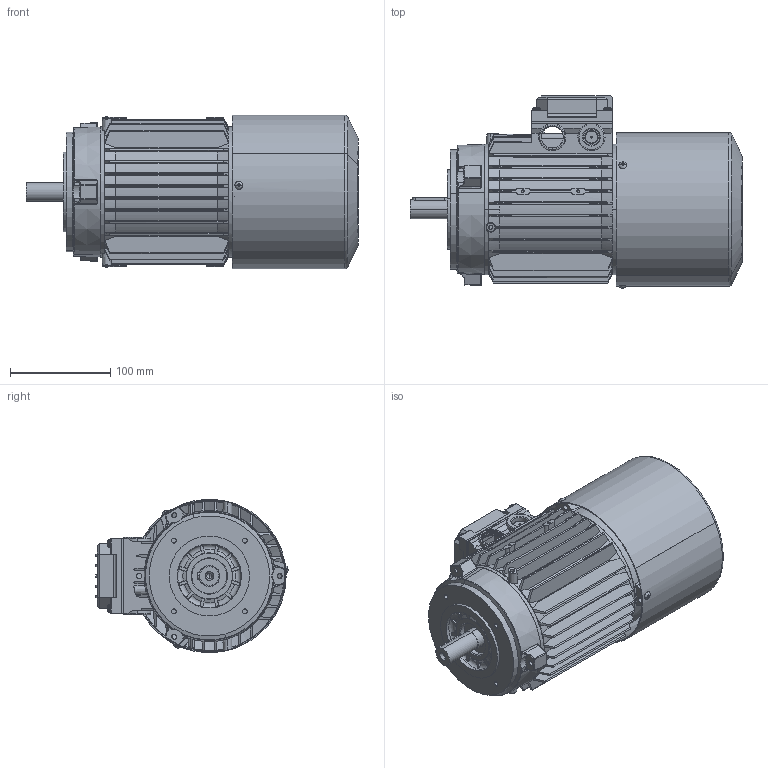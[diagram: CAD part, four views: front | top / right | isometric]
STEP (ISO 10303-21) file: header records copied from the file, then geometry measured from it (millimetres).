
FILE_DESCRIPTION (( 'STEP AP214' ), '1' );
FILE_NAME ('M14DC0010.STEP', '2019-01-31T15:26:45', ( '' ), ( '' ), 'SwSTEP 2.0', 'SolidWorks 2018', '' );
FILE_SCHEMA (( 'AUTOMOTIVE_DESIGN' ));
Length unit declared in the file: millimetre
Products named in the file (12): Coperchio per Scatola Singola 63-71-80 con viti; Guarnizione Scatola Singola 63-71-80; Vite per coperchio morsettiera; Coperchio per Scatola Singola 63-71-80 - DBAN0095; Vite testa rotonda M3; Scudo Lato Freno P1 BM 80 - DCAH0195; Cuffia BM 80 - DCAL0097; Scudo a flangia B14 BA-BM 80 - DCAC0194; Chiavetta 80; Albero BM 80; Carcassa 80 B5; M14DC0010
Assembly tree (16 placements, depth 3):
  M14DC0010
    Carcassa 80 B5
    Albero BM 80
    Chiavetta 80
    Scudo a flangia B14 BA-BM 80 - DCAC0194
    Cuffia BM 80 - DCAL0097
    Scudo Lato Freno P1 BM 80 - DCAH0195
    Vite testa rotonda M3  x3
    Coperchio per Scatola Singola 63-71-80 con viti
      Coperchio per Scatola Singola 63-71-80 - DBAN0095
      Vite per coperchio morsettiera  x4
      Guarnizione Scatola Singola 63-71-80
Bounding box: 330.75 x 191.38 x 153 mm (x, y, z)
Volume: 794517.5 mm3; surface area: 538464.8 mm2
Topology: 15 solids, 15 shells, 2433 faces, 6673 edges, 4307 vertices
Faces by surface type: plane 916, cylinder 901, torus 267, cone 232, bspline 111, sphere 6
Entity records: 82363 total; most frequent: CARTESIAN_POINT 27152, ORIENTED_EDGE 11952, DIRECTION 10767, EDGE_CURVE 5976, AXIS2_PLACEMENT_3D 4027, VERTEX_POINT 3889, LINE 2713, VECTOR 2713
